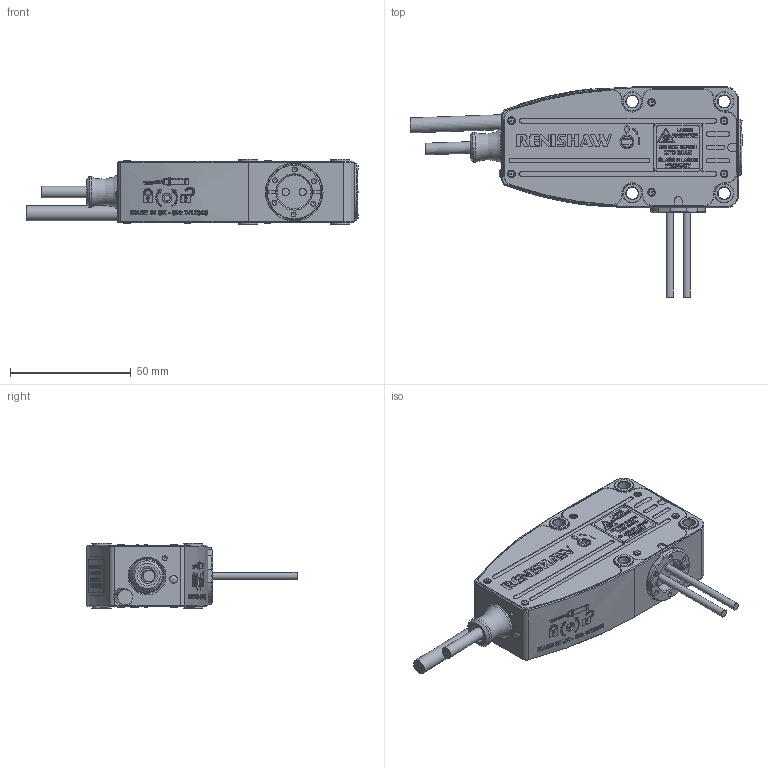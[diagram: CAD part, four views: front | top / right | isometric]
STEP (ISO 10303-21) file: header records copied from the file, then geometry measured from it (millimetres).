
FILE_DESCRIPTION( ( 'Unknown' ), '1' );
FILE_NAME( 'C:/Part2.stp', 'Unknown', ( 'Unknown' ), ( 'Unknown' ), 'XStep 1.0', 'Unknown', ' ' );
FILE_SCHEMA( ( 'CONFIG_CONTROL_DESIGN' ) );
Length unit declared in the file: millimetre
Products named in the file (1): 1
Bounding box: 137.35 x 86.9 x 27 mm (x, y, z)
Volume: 117379.3 mm3; surface area: 23607 mm2
Topology: 1 solids, 2 shells, 4477 faces, 12015 edges, 8003 vertices
Faces by surface type: plane 2801, extrusion 1069, cylinder 542, cone 48, torus 16, sphere 1
Full cylindrical faces by diameter (mm): 1.5 x1, 1.75 x1, 2 x1, 2.05 x6, 2.5 x1, 3 x16, 3.175 x1, 3.2 x14, 4 x1, 4.8 x3, 5 x4, 5.75 x2, 6 x2, 6.2 x2, 8 x8, 12.4 x1, 12.5 x1, 14 x2, 14.4 x1, 23.2 x1, 23.9 x2
Entity records: 146565 total; most frequent: CARTESIAN_POINT 37654, ORIENTED_EDGE 23694, DIRECTION 19293, EDGE_CURVE 11847, VECTOR 8829, VERTEX_POINT 7960, LINE 7760, AXIS2_PLACEMENT_3D 5232
